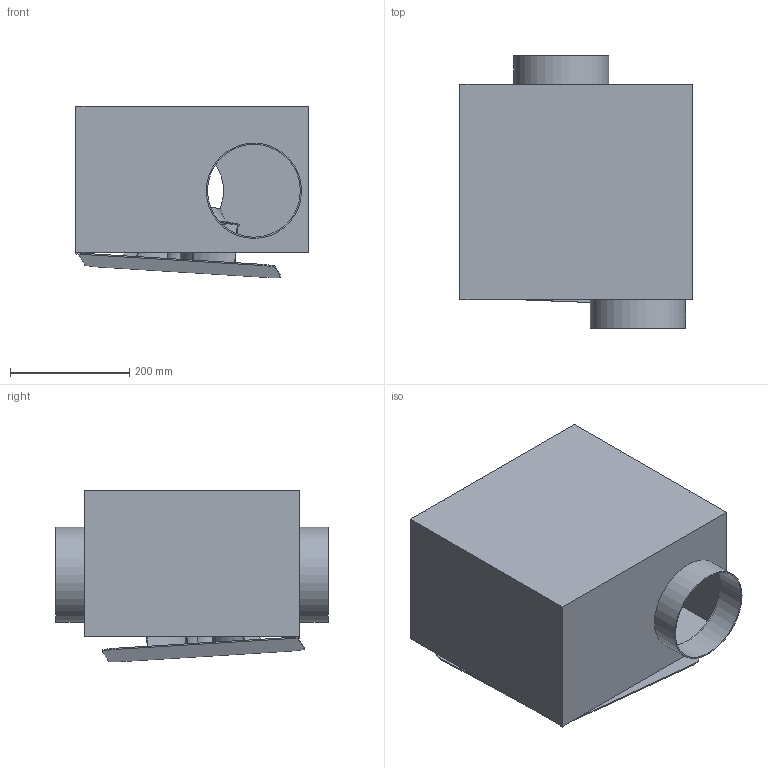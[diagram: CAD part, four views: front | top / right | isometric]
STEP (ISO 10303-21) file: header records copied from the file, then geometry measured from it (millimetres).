
FILE_DESCRIPTION(/* description */ (''),/* implementation_level */ '2;1');
FILE_NAME(/* name */ 'Z:\Output\SVS_160_L-02653-001.stp',/* time_stamp */ '2021-04-16T13:49:55+02:00',/* author */ ('engineering1'),/* organization */ (''),/* preprocessor_version */ 'ST-DEVELOPER v17.2',/* originating_system */ 'Autodesk Inventor 2019',/* authorisation */ '');
FILE_SCHEMA (('AUTOMOTIVE_DESIGN { 1 0 10303 214 3 1 1 }'));
Length unit declared in the file: millimetre
Products named in the file (1): SVR-1
Bounding box: 390.13 x 458 x 288.09 mm (x, y, z)
Volume: 1553160.9 mm3; surface area: 1524614.2 mm2
Topology: 2 solids, 2 shells, 118 faces, 302 edges, 182 vertices
Faces by surface type: plane 60, cylinder 37, cone 19, torus 2
Full cylindrical faces by diameter (mm): 156 x2, 160 x2, 195 x2
Entity records: 3792 total; most frequent: CARTESIAN_POINT 889, DIRECTION 612, ORIENTED_EDGE 604, EDGE_CURVE 302, AXIS2_PLACEMENT_3D 239, VERTEX_POINT 182, LINE 134, VECTOR 134
